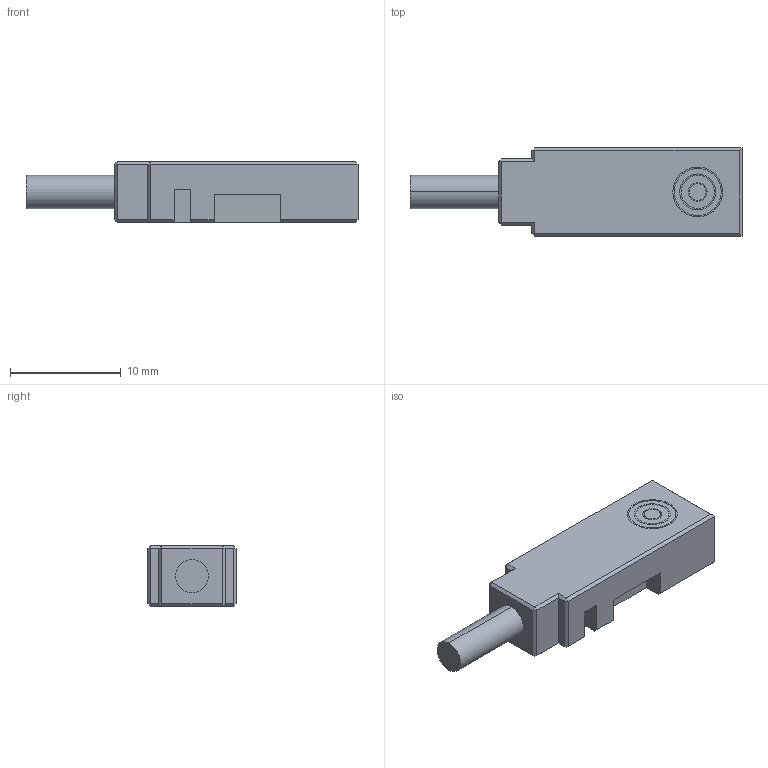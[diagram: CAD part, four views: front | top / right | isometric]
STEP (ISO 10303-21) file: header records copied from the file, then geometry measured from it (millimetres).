
FILE_DESCRIPTION (( 'STEP AP203' ), '1' );
FILE_NAME ('Q5-5K.step', '2012-08-30T18:59:38', ( 'Turck User' ), ( '' ), 'SwSTEP 2.0', 'SolidWorks 2012', '' );
FILE_SCHEMA (( 'CONFIG_CONTROL_DESIGN' ));
Length unit declared in the file: millimetre
Products named in the file (1): Q5-5K
Bounding box: 30 x 8 x 5.5 mm (x, y, z)
Volume: 954.5 mm3; surface area: 743.5 mm2
Topology: 1 solids, 1 shells, 65 faces, 148 edges, 92 vertices
Faces by surface type: plane 51, cylinder 14
Entity records: 1867 total; most frequent: DIRECTION 308, CARTESIAN_POINT 306, ORIENTED_EDGE 296, EDGE_CURVE 148, LINE 120, VECTOR 120, AXIS2_PLACEMENT_3D 94, VERTEX_POINT 92
